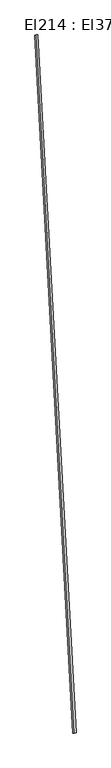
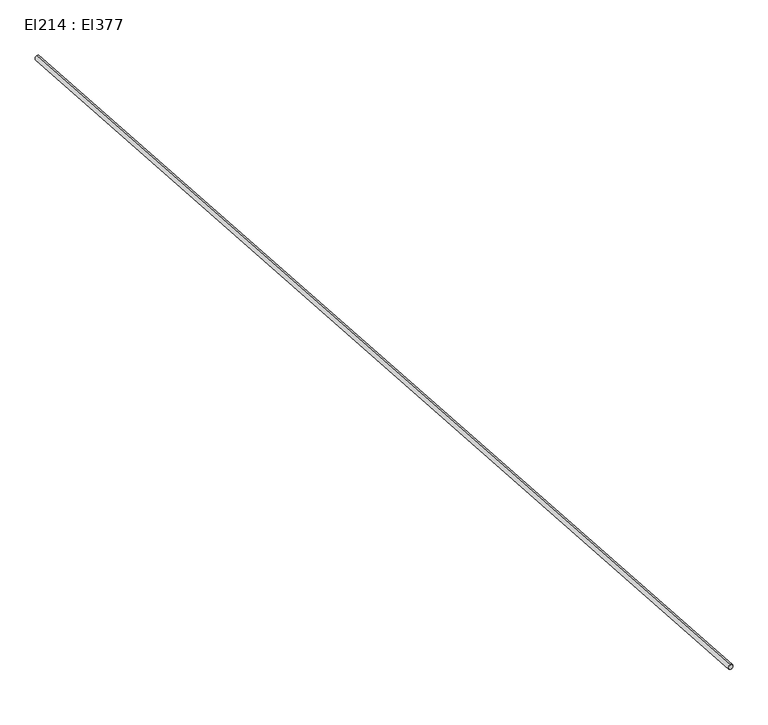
"""IFC4 building model written with IfcOpenShell, lengths in millimetres: cable carrier segment geometry, El214 : El377."""

from ifc_helpers import new_model, si_unit, point, frame, frame_2d, origin, place, context, project, spatial, circle_curve, trimmed, segment, composite_curve, outline, extrude, source, transform, mapped, element, save


def el214_el377_bcd5c488(model_context):
    return source(origin(), model_context, "Body", "SweptSolid", [
        extrude(outline(composite_curve([segment(trimmed(circle_curve(frame_2d((0.0, -9.5)), 9.5), [point((0.0, -19.0))], [point((0.0, 0.0))], False, "CARTESIAN"), True, "CONTINUOUS"), segment(trimmed(circle_curve(frame_2d((0.0, -9.5)), 9.5), [point((0.0, 0.0))], [point((0.0, -19.0))], False, "CARTESIAN"), True, "CONTINUOUS")], self_intersect=False)), frame((-365.0511692, 19525.242223, 1509.5), z_axis=(-0.05438280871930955, 0.998520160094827, 0.0), x_axis=(-0.998520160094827, -0.05438280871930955, 0.0)), (0.0, 0.0, 1.0), 4284.28),
    ])


if __name__ == "__main__":
    model = new_model("IFC4")
    model_context = context("Model", 3, world=origin())
    ifc_project = project(units=[si_unit("LENGTHUNIT", "METRE", prefix="MILLI")], contexts=[model_context])
    site = spatial("IfcSite", under=ifc_project)
    building = spatial("IfcBuilding", under=site)
    placement = place(None, origin())
    el214_el377_shape = el214_el377_bcd5c488(model_context)
    element("IfcCableCarrierSegment", 1, ObjectType="El214 : El377", at=placement, inside=building, context=model_context, shape_type="MappedRepresentation", body=[
        mapped(el214_el377_shape, transform((0.0, 0.0, 0.0), x_axis=(1.0, 0.0, 0.0), y_axis=(0.0, 1.0, 0.0), z_axis=(0.0, 0.0, 1.0))),
    ])
    save(model, "model.ifc")
